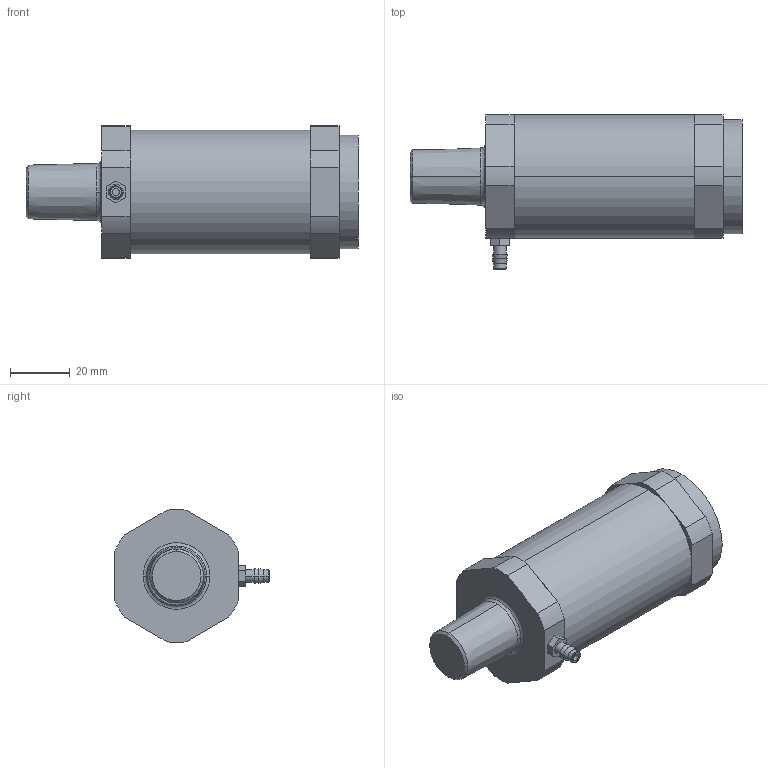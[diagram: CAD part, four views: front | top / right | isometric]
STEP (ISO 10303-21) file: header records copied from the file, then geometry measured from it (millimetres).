
FILE_DESCRIPTION((''),'2;1');
FILE_NAME('XD4_ASM','2017-08-24T',('jennifer.elliott'),('CenterLine (Windsor) Ltd - Automation Components Division'),'PRO/ENGINEER BY PARAMETRIC TECHNOLOGY CORPORATION, 2015030','PRO/ENGINEER BY PARAMETRIC TECHNOLOGY CORPORATION, 2015030','');
FILE_SCHEMA(('AUTOMOTIVE_DESIGN { 1 0 10303 214 1 1 1 1 }'));
Length unit declared in the file: inch
Products named in the file (6): PRT1008; PRT1009; PRT1010; PRT1011; PRT1012; XD4_ASM
Assembly tree (5 placements, depth 2):
  XD4_ASM
    PRT1008
    PRT1009
    PRT1010
    PRT1011
    PRT1012
Bounding box: 111 x 51.59 x 44.45 mm (x, y, z)
Volume: 122527.5 mm3; surface area: 23624.4 mm2
Topology: 5 solids, 5 shells, 70 faces, 183 edges, 127 vertices
Faces by surface type: plane 32, cylinder 22, torus 8, cone 8
Entity records: 2611 total; most frequent: DIRECTION 444, CARTESIAN_POINT 407, ORIENTED_EDGE 366, EDGE_CURVE 183, AXIS2_PLACEMENT_3D 180, VERTEX_POINT 127, CIRCLE 99, VECTOR 84
